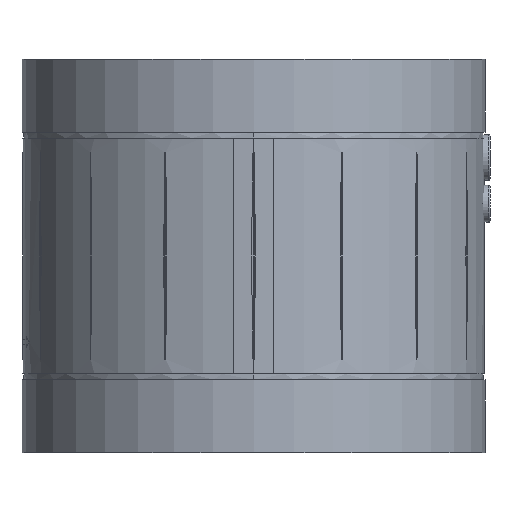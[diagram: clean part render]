
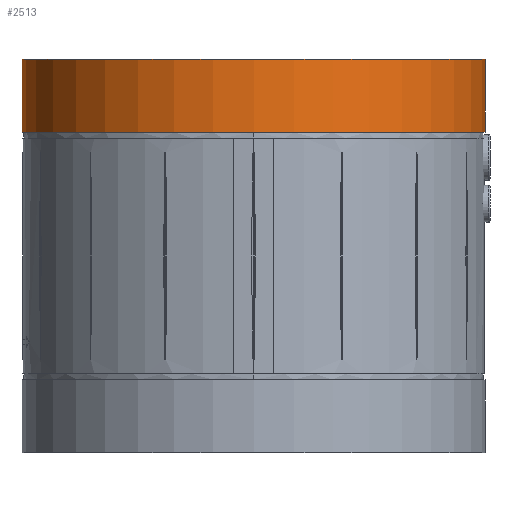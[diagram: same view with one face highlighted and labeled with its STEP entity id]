
A CAD part, left-side view. The second image highlights one B-rep face of the part: STEP entity #2513.
In plain terms, the highlighted cylindrical face has radius 79.5 mm (diameter 159 mm), a partial arc.
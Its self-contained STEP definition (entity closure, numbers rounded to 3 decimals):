
#19 = CARTESIAN_POINT ( 'NONE',  ( 0., 79.5, 0. ) ) ;
#115 = DIRECTION ( 'NONE',  ( 0., -1., 0. ) ) ;
#344 = VERTEX_POINT ( 'NONE', #6330 ) ;
#447 = VERTEX_POINT ( 'NONE', #7171 ) ;
#558 = VERTEX_POINT ( 'NONE', #7627 ) ;
#663 = DIRECTION ( 'NONE',  ( 0., 0., -1. ) ) ;
#705 = ORIENTED_EDGE ( 'NONE', *, *, #4628, .F. ) ;
#722 = ORIENTED_EDGE ( 'NONE', *, *, #6276, .T. ) ;
#736 = ORIENTED_EDGE ( 'NONE', *, *, #5819, .T. ) ;
#762 = ORIENTED_EDGE ( 'NONE', *, *, #6102, .T. ) ;
#816 = CARTESIAN_POINT ( 'NONE',  ( 0., 0., 153.142 ) ) ;
#1160 = EDGE_LOOP ( 'NONE', ( #762, #722, #736, #705 ) ) ;
#1415 = DIRECTION ( 'NONE',  ( 0., -1., 0. ) ) ;
#1950 = VERTEX_POINT ( 'NONE', #4249 ) ;
#1951 = AXIS2_PLACEMENT_3D ( 'NONE', #7668, #4000, #115 ) ;
#2079 = AXIS2_PLACEMENT_3D ( 'NONE', #816, #5374, #1415 ) ;
#2395 = CARTESIAN_POINT ( 'NONE',  ( 0., -79.5, 0. ) ) ;
#2505 = DIRECTION ( 'NONE',  ( 0., 0., -1. ) ) ;
#2513 = ADVANCED_FACE ( 'NONE', ( #7798 ), #7546, .T. ) ;
#3078 = CARTESIAN_POINT ( 'NONE',  ( 0., 0., 0. ) ) ;
#3535 = DIRECTION ( 'NONE',  ( 0., -1., 0. ) ) ;
#3635 = DIRECTION ( 'NONE',  ( 0., 0., -1. ) ) ;
#3906 = VECTOR ( 'NONE', #663, 1000. ) ;
#4000 = DIRECTION ( 'NONE',  ( 0., 0., -1. ) ) ;
#4010 = AXIS2_PLACEMENT_3D ( 'NONE', #3078, #3635, #3535 ) ;
#4203 = LINE ( 'NONE', #19, #3906 ) ;
#4249 = CARTESIAN_POINT ( 'NONE',  ( 0., -79.5, 153.142 ) ) ;
#4628 = EDGE_CURVE ( 'NONE', #447, #1950, #5839, .T. ) ;
#4786 = CIRCLE ( 'NONE', #1951, 79.5 ) ;
#5374 = DIRECTION ( 'NONE',  ( 0., 0., 1. ) ) ;
#5741 = VECTOR ( 'NONE', #2505, 1000. ) ;
#5819 = EDGE_CURVE ( 'NONE', #344, #1950, #6805, .T. ) ;
#5839 = LINE ( 'NONE', #2395, #5741 ) ;
#6102 = EDGE_CURVE ( 'NONE', #447, #558, #4786, .T. ) ;
#6276 = EDGE_CURVE ( 'NONE', #558, #344, #4203, .T. ) ;
#6330 = CARTESIAN_POINT ( 'NONE',  ( 0., 79.5, 153.142 ) ) ;
#6805 = CIRCLE ( 'NONE', #2079, 79.5 ) ;
#7171 = CARTESIAN_POINT ( 'NONE',  ( 0., -79.5, 178.142 ) ) ;
#7546 = CYLINDRICAL_SURFACE ( 'NONE', #4010, 79.5 ) ;
#7627 = CARTESIAN_POINT ( 'NONE',  ( 0., 79.5, 178.142 ) ) ;
#7668 = CARTESIAN_POINT ( 'NONE',  ( 0., 0., 178.142 ) ) ;
#7798 = FACE_OUTER_BOUND ( 'NONE', #1160, .T. ) ;
